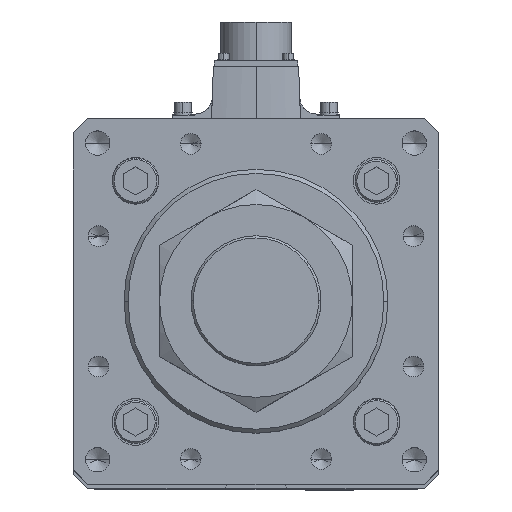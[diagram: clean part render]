
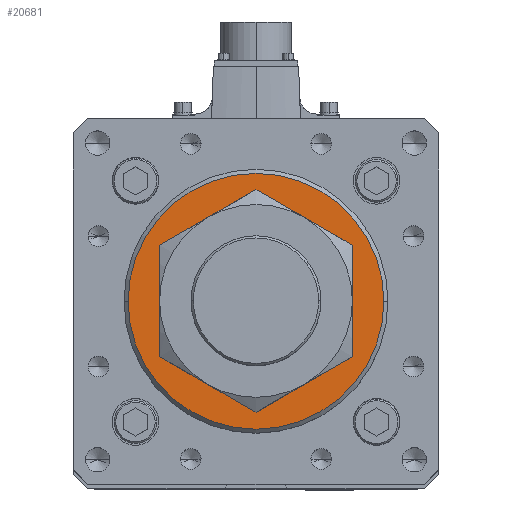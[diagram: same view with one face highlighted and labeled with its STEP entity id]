
A CAD part, top view. The second image highlights one B-rep face of the part: STEP entity #20681.
In plain terms, the highlighted planar face has unit normal (0, 0, 1).
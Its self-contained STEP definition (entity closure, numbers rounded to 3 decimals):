
#1299 = CARTESIAN_POINT ( 'NONE',  ( 0., 0., 1262. ) ) ;
#1463 = AXIS2_PLACEMENT_3D ( 'NONE', #15696, #11422, #54144 ) ;
#5593 = AXIS2_PLACEMENT_3D ( 'NONE', #33982, #12639, #21418 ) ;
#5876 = DIRECTION ( 'NONE',  ( 1., 0., 0. ) ) ;
#6934 = PLANE ( 'NONE',  #1463 ) ;
#7469 = ORIENTED_EDGE ( 'NONE', *, *, #13674, .T. ) ;
#7901 = VERTEX_POINT ( 'NONE', #20885 ) ;
#8440 = CARTESIAN_POINT ( 'NONE',  ( 40.5, 0., 1262. ) ) ;
#9613 = AXIS2_PLACEMENT_3D ( 'NONE', #31831, #40401, #44675 ) ;
#9692 = CIRCLE ( 'NONE', #17698, 40.5 ) ;
#11422 = DIRECTION ( 'NONE',  ( 0., 0., 1. ) ) ;
#12410 = EDGE_LOOP ( 'NONE', ( #43073, #35140 ) ) ;
#12639 = DIRECTION ( 'NONE',  ( 0., 0., -1. ) ) ;
#13674 = EDGE_CURVE ( 'NONE', #17915, #7901, #31761, .T. ) ;
#13968 = DIRECTION ( 'NONE',  ( 1., 0., 0. ) ) ;
#15696 = CARTESIAN_POINT ( 'NONE',  ( 0., 0., 1262. ) ) ;
#16822 = CARTESIAN_POINT ( 'NONE',  ( -63., 0., 1262. ) ) ;
#17698 = AXIS2_PLACEMENT_3D ( 'NONE', #50090, #31488, #5876 ) ;
#17915 = VERTEX_POINT ( 'NONE', #16822 ) ;
#19474 = FACE_BOUND ( 'NONE', #12410, .T. ) ;
#20681 = ADVANCED_FACE ( 'NONE', ( #19474, #23523 ), #6934, .T. ) ;
#20885 = CARTESIAN_POINT ( 'NONE',  ( 63., 0., 1262. ) ) ;
#21418 = DIRECTION ( 'NONE',  ( 1., 0., 0. ) ) ;
#23523 = FACE_OUTER_BOUND ( 'NONE', #49377, .T. ) ;
#23926 = AXIS2_PLACEMENT_3D ( 'NONE', #1299, #35134, #13968 ) ;
#24314 = CIRCLE ( 'NONE', #5593, 40.5 ) ;
#24876 = VERTEX_POINT ( 'NONE', #8440 ) ;
#27415 = CARTESIAN_POINT ( 'NONE',  ( -40.5, 0., 1262. ) ) ;
#27946 = ORIENTED_EDGE ( 'NONE', *, *, #36402, .T. ) ;
#28028 = VERTEX_POINT ( 'NONE', #27415 ) ;
#31488 = DIRECTION ( 'NONE',  ( 0., 0., -1. ) ) ;
#31761 = CIRCLE ( 'NONE', #9613, 63. ) ;
#31831 = CARTESIAN_POINT ( 'NONE',  ( 0., 0., 1262. ) ) ;
#33982 = CARTESIAN_POINT ( 'NONE',  ( 0., 0., 1262. ) ) ;
#35134 = DIRECTION ( 'NONE',  ( 0., 0., 1. ) ) ;
#35140 = ORIENTED_EDGE ( 'NONE', *, *, #47652, .T. ) ;
#36402 = EDGE_CURVE ( 'NONE', #7901, #17915, #46008, .T. ) ;
#40401 = DIRECTION ( 'NONE',  ( 0., 0., 1. ) ) ;
#43073 = ORIENTED_EDGE ( 'NONE', *, *, #46120, .T. ) ;
#44675 = DIRECTION ( 'NONE',  ( 1., 0., 0. ) ) ;
#46008 = CIRCLE ( 'NONE', #23926, 63. ) ;
#46120 = EDGE_CURVE ( 'NONE', #24876, #28028, #9692, .T. ) ;
#47652 = EDGE_CURVE ( 'NONE', #28028, #24876, #24314, .T. ) ;
#49377 = EDGE_LOOP ( 'NONE', ( #7469, #27946 ) ) ;
#50090 = CARTESIAN_POINT ( 'NONE',  ( 0., 0., 1262. ) ) ;
#54144 = DIRECTION ( 'NONE',  ( 1., 0., 0. ) ) ;
